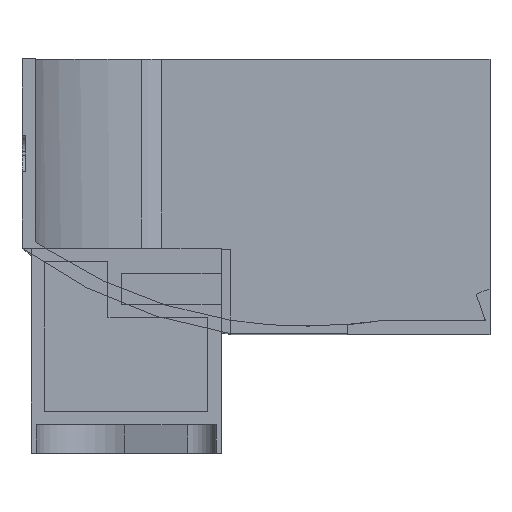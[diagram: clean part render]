
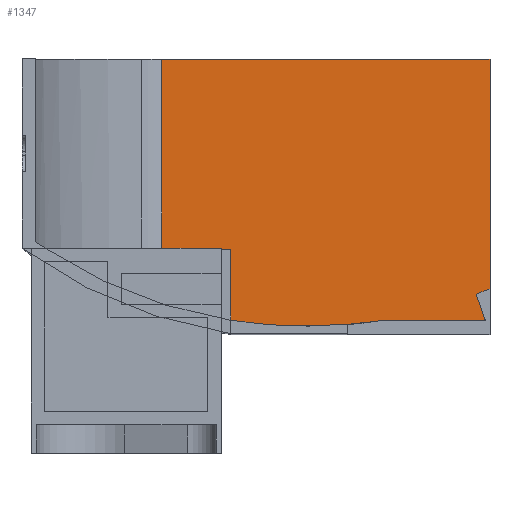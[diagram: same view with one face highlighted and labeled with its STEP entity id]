
A CAD part, top view. The second image highlights one B-rep face of the part: STEP entity #1347.
In plain terms, the highlighted planar face has unit normal (0, 0, 1).
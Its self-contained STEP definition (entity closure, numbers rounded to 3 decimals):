
#43=CIRCLE('',#1445,248.);
#47=CIRCLE('',#1450,248.);
#138=FACE_OUTER_BOUND('',#213,.T.);
#213=EDGE_LOOP('',(#1135,#1136,#1137,#1138,#1139,#1140,#1141,#1142,#1143));
#312=LINE('',#2079,#462);
#314=LINE('',#2088,#464);
#318=LINE('',#2096,#468);
#325=LINE('',#2126,#475);
#352=LINE('',#2194,#502);
#353=LINE('',#2198,#503);
#354=LINE('',#2199,#504);
#462=VECTOR('',#1684,10.);
#464=VECTOR('',#1692,10.);
#468=VECTOR('',#1698,10.);
#475=VECTOR('',#1723,10.);
#502=VECTOR('',#1792,10.);
#503=VECTOR('',#1797,10.);
#504=VECTOR('',#1798,10.);
#600=VERTEX_POINT('',#2076);
#601=VERTEX_POINT('',#2078);
#604=VERTEX_POINT('',#2086);
#605=VERTEX_POINT('',#2087);
#608=VERTEX_POINT('',#2095);
#610=VERTEX_POINT('',#2101);
#615=VERTEX_POINT('',#2113);
#636=VERTEX_POINT('',#2193);
#637=VERTEX_POINT('',#2197);
#758=EDGE_CURVE('',#601,#600,#312,.T.);
#762=EDGE_CURVE('',#604,#605,#314,.T.);
#766=EDGE_CURVE('',#608,#604,#318,.T.);
#769=EDGE_CURVE('',#610,#608,#43,.T.);
#776=EDGE_CURVE('',#605,#615,#47,.T.);
#779=EDGE_CURVE('',#600,#610,#325,.T.);
#813=EDGE_CURVE('',#601,#636,#352,.T.);
#815=EDGE_CURVE('',#615,#637,#353,.T.);
#816=EDGE_CURVE('',#637,#636,#354,.T.);
#1135=ORIENTED_EDGE('',*,*,#813,.F.);
#1136=ORIENTED_EDGE('',*,*,#758,.T.);
#1137=ORIENTED_EDGE('',*,*,#779,.T.);
#1138=ORIENTED_EDGE('',*,*,#769,.T.);
#1139=ORIENTED_EDGE('',*,*,#766,.T.);
#1140=ORIENTED_EDGE('',*,*,#762,.T.);
#1141=ORIENTED_EDGE('',*,*,#776,.T.);
#1142=ORIENTED_EDGE('',*,*,#815,.T.);
#1143=ORIENTED_EDGE('',*,*,#816,.T.);
#1280=PLANE('',#1475);
#1347=ADVANCED_FACE('',(#138),#1280,.F.);
#1445=AXIS2_PLACEMENT_3D('',#2102,#1703,#1704);
#1450=AXIS2_PLACEMENT_3D('',#2115,#1716,#1717);
#1475=AXIS2_PLACEMENT_3D('',#2196,#1795,#1796);
#1684=DIRECTION('',(1.,0.,0.));
#1692=DIRECTION('',(-0.326,0.945,0.));
#1698=DIRECTION('',(1.,0.,0.));
#1703=DIRECTION('center_axis',(0.,0.,1.));
#1704=DIRECTION('ref_axis',(-0.347,-0.938,0.));
#1716=DIRECTION('center_axis',(0.,0.,1.));
#1717=DIRECTION('ref_axis',(-0.347,-0.938,0.));
#1723=DIRECTION('',(0.,-1.,0.));
#1792=DIRECTION('',(0.,1.,0.));
#1795=DIRECTION('center_axis',(0.,0.,-1.));
#1796=DIRECTION('ref_axis',(-1.,0.,0.));
#1797=DIRECTION('',(0.,1.,0.));
#1798=DIRECTION('',(-1.,0.,0.));
#2076=CARTESIAN_POINT('',(-32.31,0.,-197.863));
#2078=CARTESIAN_POINT('',(-68.707,0.,-197.863));
#2079=CARTESIAN_POINT('',(44.472,0.,-197.863));
#2086=CARTESIAN_POINT('',(101.96,-37.915,-197.863));
#2087=CARTESIAN_POINT('',(97.116,-23.868,-197.863));
#2088=CARTESIAN_POINT('',(99.377,-30.424,-197.863));
#2095=CARTESIAN_POINT('',(45.476,-37.915,-197.863));
#2096=CARTESIAN_POINT('',(59.597,-37.915,-197.863));
#2101=CARTESIAN_POINT('',(-32.31,-37.915,-197.863));
#2102=CARTESIAN_POINT('Origin',(6.583,207.017,-197.863));
#2113=CARTESIAN_POINT('',(104.403,-20.876,-197.863));
#2115=CARTESIAN_POINT('Origin',(6.583,207.017,-197.863));
#2126=CARTESIAN_POINT('',(-32.31,4.,-197.863));
#2193=CARTESIAN_POINT('',(-68.707,100.,-197.863));
#2194=CARTESIAN_POINT('',(-68.707,0.,-197.863));
#2196=CARTESIAN_POINT('Origin',(104.403,0.,-197.863));
#2197=CARTESIAN_POINT('',(104.403,100.,-197.863));
#2198=CARTESIAN_POINT('',(104.403,0.,-197.863));
#2199=CARTESIAN_POINT('',(104.403,100.,-197.863));
